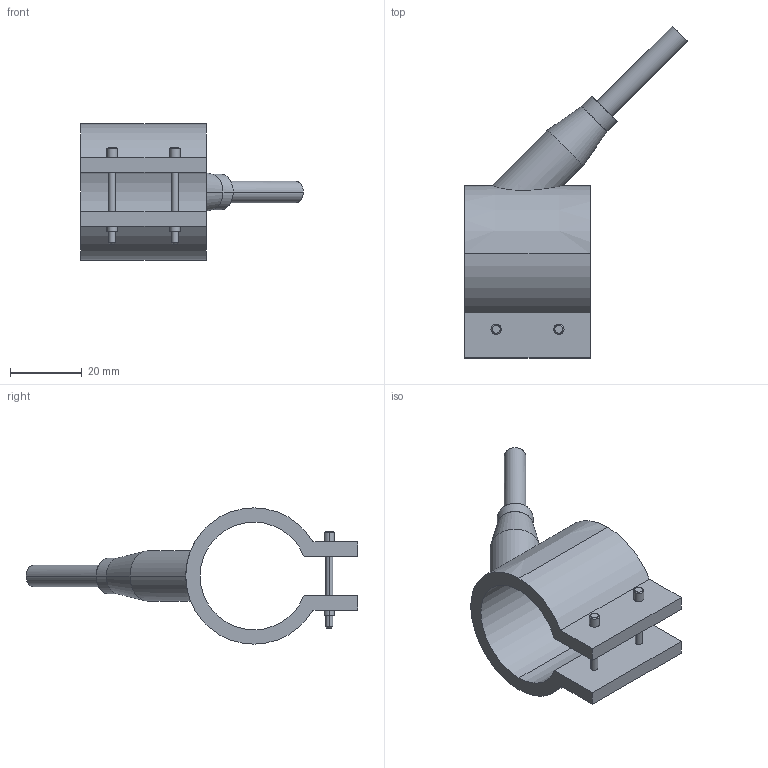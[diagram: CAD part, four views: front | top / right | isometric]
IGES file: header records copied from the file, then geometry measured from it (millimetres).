
Start section: START RECORD GO HERE.
Global section: file name: 29030035.igs; native system: DASSAULT SYSTEMES CATIA V5 R20 - www.3ds.com; preprocessor: CATIA Version 5 Release 20 ; author: Utente; organization: NB04-ASUS; date: 20210327.100650; units: millimetre
Bounding box: 62.05 x 92.55 x 38 mm (x, y, z)
Surface area: 11469.5 mm2 (no closed solid volume)
Topology: 0 solids, 0 shells, 54 faces, 244 edges, 244 vertices
Faces by surface type: revolution 38, plane 16
